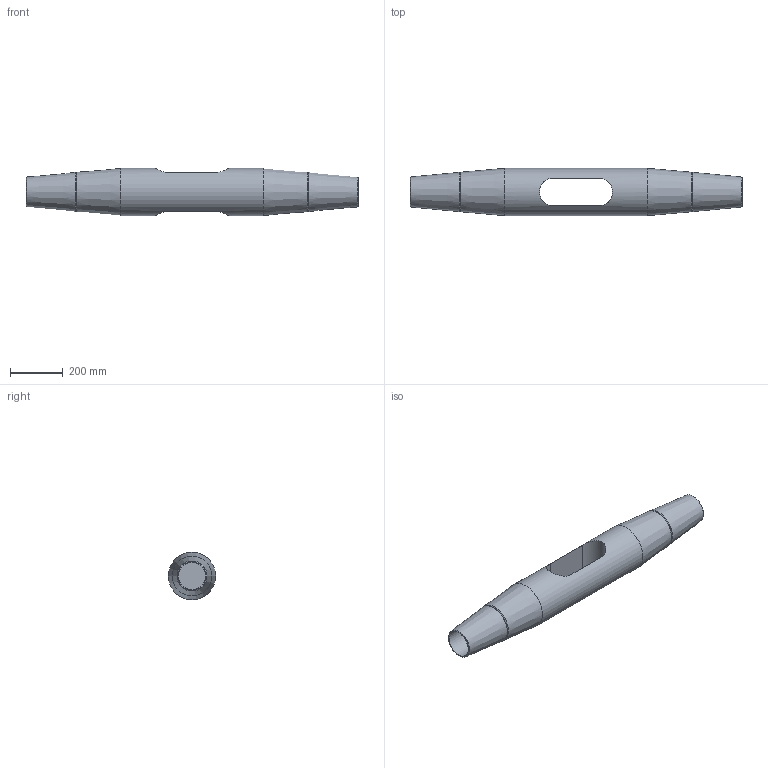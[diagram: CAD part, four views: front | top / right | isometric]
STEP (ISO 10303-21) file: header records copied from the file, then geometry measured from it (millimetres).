
FILE_DESCRIPTION(/* description */ (''),/* implementation_level */ '2;1');
FILE_NAME(/* name */ 'G:\Engineering\700 CAD\Internet-PX-1-step-igs-dxf\520-KMF-Arbeitsdateien\520-100-KMF.stp',/* time_stamp */ '2020-07-02T13:29:41+02:00',/* author */ ('schwarz'),/* organization */ (''),/* preprocessor_version */ 'ST-DEVELOPER v16.1',/* originating_system */ 'Autodesk Inventor 2016',/* authorisation */ '');
FILE_SCHEMA (('AUTOMOTIVE_DESIGN { 1 0 10303 214 3 1 1 }'));
Length unit declared in the file: centimetre
Products named in the file (1): Kreuzmuffen-Set 520 100 Kunde
Bounding box: 1264 x 180 x 180 mm (x, y, z)
Volume: 19392140.9 mm3; surface area: 801444.9 mm2
Topology: 1 solids, 1 shells, 21 faces, 41 edges, 24 vertices
Faces by surface type: cone 10, plane 6, cylinder 5
Full cylindrical faces by diameter (mm): 103 x2, 180 x1
Entity records: 653 total; most frequent: CARTESIAN_POINT 206, DIRECTION 84, ORIENTED_EDGE 56, EDGE_LOOP 38, AXIS2_PLACEMENT_3D 38, EDGE_CURVE 28, VERTEX_POINT 24, STYLED_ITEM 22
